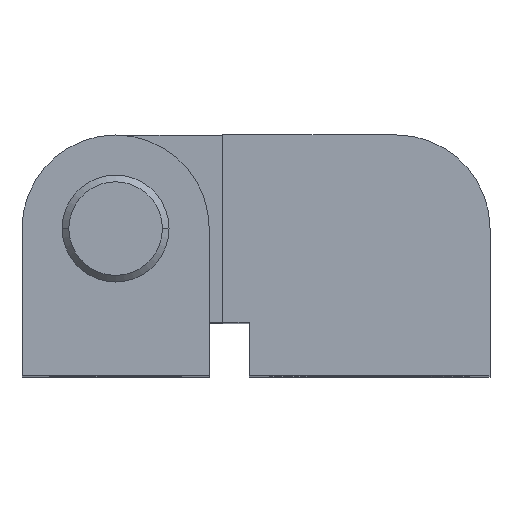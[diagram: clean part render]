
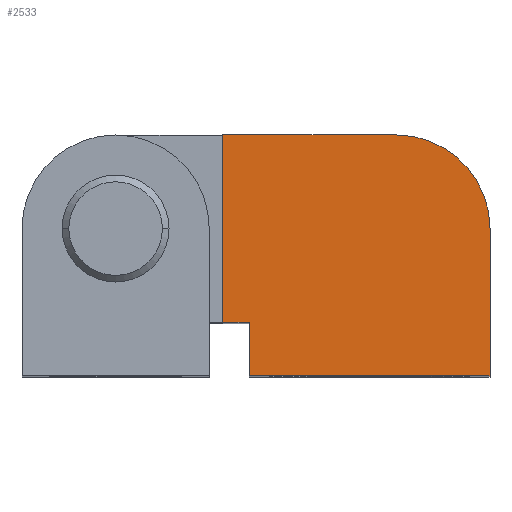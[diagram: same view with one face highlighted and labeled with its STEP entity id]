
A CAD part, top view. The second image highlights one B-rep face of the part: STEP entity #2533.
In plain terms, the highlighted planar face has unit normal (0, 0, 1).
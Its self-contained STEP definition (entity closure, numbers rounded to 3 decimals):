
#2 = CARTESIAN_POINT ( 'NONE',  ( 21., 0., 30. ) ) ;
#45 = ORIENTED_EDGE ( 'NONE', *, *, #747, .T. ) ;
#188 = DIRECTION ( 'NONE',  ( 1., 0., 0. ) ) ;
#248 = VERTEX_POINT ( 'NONE', #3654 ) ;
#261 = CARTESIAN_POINT ( 'NONE',  ( 28., 0., 30. ) ) ;
#296 = DIRECTION ( 'NONE',  ( 1., 0., 0. ) ) ;
#365 = EDGE_CURVE ( 'NONE', #248, #972, #1436, .T. ) ;
#405 = CIRCLE ( 'NONE', #3415, 7. ) ;
#588 = CARTESIAN_POINT ( 'NONE',  ( 0., -11., 30. ) ) ;
#625 = ORIENTED_EDGE ( 'NONE', *, *, #3619, .T. ) ;
#692 = CARTESIAN_POINT ( 'NONE',  ( 0., 0., 30. ) ) ;
#709 = VECTOR ( 'NONE', #188, 1000. ) ;
#747 = EDGE_CURVE ( 'NONE', #2322, #248, #815, .T. ) ;
#810 = VECTOR ( 'NONE', #1857, 1000. ) ;
#815 = LINE ( 'NONE', #588, #709 ) ;
#821 = FACE_OUTER_BOUND ( 'NONE', #2199, .T. ) ;
#829 = CARTESIAN_POINT ( 'NONE',  ( 8., 0., 30. ) ) ;
#857 = VECTOR ( 'NONE', #1859, 1000. ) ;
#902 = ORIENTED_EDGE ( 'NONE', *, *, #1757, .T. ) ;
#972 = VERTEX_POINT ( 'NONE', #3174 ) ;
#1121 = DIRECTION ( 'NONE',  ( 0., -1., 0. ) ) ;
#1183 = VERTEX_POINT ( 'NONE', #1946 ) ;
#1322 = EDGE_CURVE ( 'NONE', #3461, #1508, #2994, .T. ) ;
#1345 = AXIS2_PLACEMENT_3D ( 'NONE', #692, #3557, #1838 ) ;
#1436 = LINE ( 'NONE', #261, #3612 ) ;
#1491 = EDGE_CURVE ( 'NONE', #1183, #2776, #2372, .T. ) ;
#1508 = VERTEX_POINT ( 'NONE', #2059 ) ;
#1552 = LINE ( 'NONE', #1898, #810 ) ;
#1614 = ORIENTED_EDGE ( 'NONE', *, *, #1322, .F. ) ;
#1757 = EDGE_CURVE ( 'NONE', #2776, #2322, #1552, .T. ) ;
#1780 = CARTESIAN_POINT ( 'NONE',  ( 0., 7., 30. ) ) ;
#1837 = LINE ( 'NONE', #829, #3200 ) ;
#1838 = DIRECTION ( 'NONE',  ( 1., 0., 0. ) ) ;
#1857 = DIRECTION ( 'NONE',  ( 0., -1., 0. ) ) ;
#1859 = DIRECTION ( 'NONE',  ( 1., 0., 0. ) ) ;
#1878 = CARTESIAN_POINT ( 'NONE',  ( 0., -7., 30. ) ) ;
#1898 = CARTESIAN_POINT ( 'NONE',  ( 10., 0., 30. ) ) ;
#1946 = CARTESIAN_POINT ( 'NONE',  ( 8., -7., 30. ) ) ;
#1975 = DIRECTION ( 'NONE',  ( 0., 1., 0. ) ) ;
#2013 = DIRECTION ( 'NONE',  ( 0., 0., 1. ) ) ;
#2059 = CARTESIAN_POINT ( 'NONE',  ( 21., 7., 30. ) ) ;
#2078 = DIRECTION ( 'NONE',  ( 1., 0., 0. ) ) ;
#2105 = PLANE ( 'NONE',  #1345 ) ;
#2199 = EDGE_LOOP ( 'NONE', ( #2510, #625, #1614, #2758, #2228, #902, #45 ) ) ;
#2228 = ORIENTED_EDGE ( 'NONE', *, *, #1491, .T. ) ;
#2322 = VERTEX_POINT ( 'NONE', #2485 ) ;
#2372 = LINE ( 'NONE', #1878, #857 ) ;
#2408 = EDGE_CURVE ( 'NONE', #3461, #1183, #1837, .T. ) ;
#2485 = CARTESIAN_POINT ( 'NONE',  ( 10., -11., 30. ) ) ;
#2510 = ORIENTED_EDGE ( 'NONE', *, *, #365, .T. ) ;
#2533 = ADVANCED_FACE ( 'NONE', ( #821 ), #2105, .T. ) ;
#2758 = ORIENTED_EDGE ( 'NONE', *, *, #2408, .T. ) ;
#2776 = VERTEX_POINT ( 'NONE', #3675 ) ;
#2813 = VECTOR ( 'NONE', #2078, 1000. ) ;
#2994 = LINE ( 'NONE', #1780, #2813 ) ;
#3174 = CARTESIAN_POINT ( 'NONE',  ( 28., 0., 30. ) ) ;
#3200 = VECTOR ( 'NONE', #1121, 1000. ) ;
#3376 = CARTESIAN_POINT ( 'NONE',  ( 8., 7., 30. ) ) ;
#3415 = AXIS2_PLACEMENT_3D ( 'NONE', #2, #2013, #296 ) ;
#3461 = VERTEX_POINT ( 'NONE', #3376 ) ;
#3557 = DIRECTION ( 'NONE',  ( 0., 0., 1. ) ) ;
#3612 = VECTOR ( 'NONE', #1975, 1000. ) ;
#3619 = EDGE_CURVE ( 'NONE', #972, #1508, #405, .T. ) ;
#3654 = CARTESIAN_POINT ( 'NONE',  ( 28., -11., 30. ) ) ;
#3675 = CARTESIAN_POINT ( 'NONE',  ( 10., -7., 30. ) ) ;
